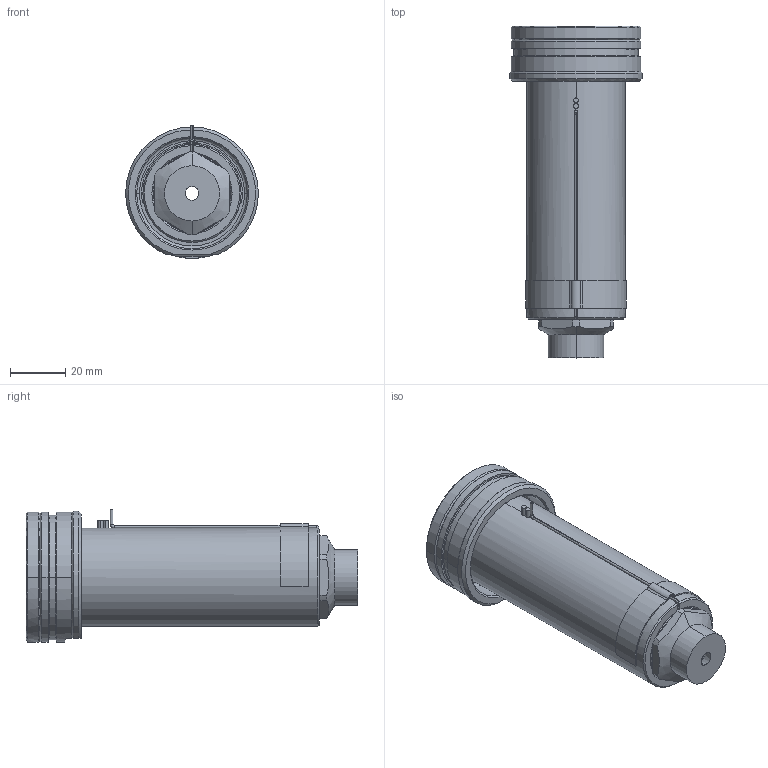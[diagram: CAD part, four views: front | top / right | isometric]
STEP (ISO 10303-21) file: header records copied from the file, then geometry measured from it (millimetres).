
FILE_DESCRIPTION((''),'2;1');
FILE_NAME('EO16_VG-FB_STD_100_SW','2024-02-19T13:42:31',('sundharh'),(''),'CREO PARAMETRIC BY PTC INC, 2023154','CREO PARAMETRIC BY PTC INC, 2023154','');
FILE_SCHEMA(('CONFIG_CONTROL_DESIGN'));
Length unit declared in the file: millimetre
Products named in the file (1): EO16_VG-FB_STD_100_SW
Bounding box: 47.97 x 120 x 48 mm (x, y, z)
Volume: 100458.8 mm3; surface area: 27961.4 mm2
Topology: 1 solids, 1 shells, 197 faces, 474 edges, 286 vertices
Faces by surface type: cylinder 72, plane 47, cone 39, torus 24, bspline 13, sphere 2
Entity records: 6597 total; most frequent: CARTESIAN_POINT 1917, DIRECTION 1054, ORIENTED_EDGE 936, EDGE_CURVE 468, AXIS2_PLACEMENT_3D 442, VERTEX_POINT 286, CIRCLE 258, EDGE_LOOP 214
